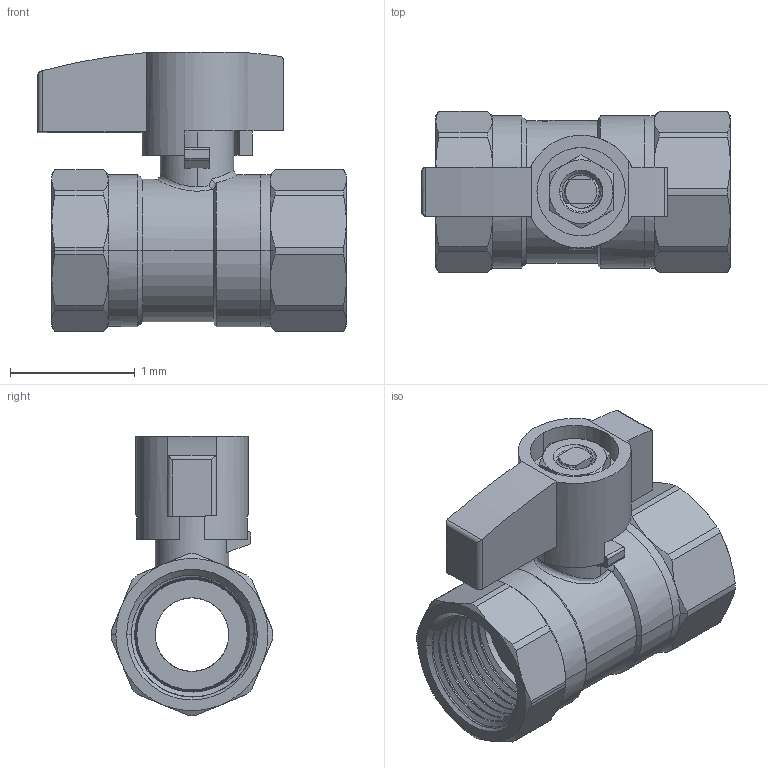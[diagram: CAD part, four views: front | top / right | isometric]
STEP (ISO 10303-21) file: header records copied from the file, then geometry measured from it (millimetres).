
FILE_DESCRIPTION(('Open CASCADE Model'),'2;1');
FILE_NAME('Open CASCADE Shape Model','2022-08-04T08:03:59',('Author'),( 'Open CASCADE'),'Open CASCADE STEP processor 7.3','Open CASCADE 7.3' ,'Unknown');
FILE_SCHEMA(('AUTOMOTIVE_DESIGN { 1 0 10303 214 1 1 1 1 }'));
Length unit declared in the file: millimetre
Products named in the file (12): Open CASCADE STEP translator 7.3 1; Open CASCADE STEP translator 7.3 1.1; Open CASCADE STEP translator 7.3 1.2; Open CASCADE STEP translator 7.3 1.3; Open CASCADE STEP translator 7.3 1.4; Open CASCADE STEP translator 7.3 1.5; Open CASCADE STEP translator 7.3 1.6; Open CASCADE STEP translator 7.3 1.7; Open CASCADE STEP translator 7.3 1.8; Open CASCADE STEP translator 7.3 1.9; Open CASCADE STEP translator 7.3 1.10; Open CASCADE STEP translator 7.3 1.11
Assembly tree (11 placements, depth 2):
  Open CASCADE STEP translator 7.3 1
    Open CASCADE STEP translator 7.3 1.1
    Open CASCADE STEP translator 7.3 1.2
    Open CASCADE STEP translator 7.3 1.3
    Open CASCADE STEP translator 7.3 1.4
    Open CASCADE STEP translator 7.3 1.5
    Open CASCADE STEP translator 7.3 1.6
    Open CASCADE STEP translator 7.3 1.7
    Open CASCADE STEP translator 7.3 1.8
    Open CASCADE STEP translator 7.3 1.9
    Open CASCADE STEP translator 7.3 1.10
    Open CASCADE STEP translator 7.3 1.11
Bounding box: 2.48 x 1.3 x 2.24 mm (x, y, z)
Volume: 2.1 mm3; surface area: 42.5 mm2
Topology: 11 solids, 11 shells, 525 faces, 1374 edges, 882 vertices
Faces by surface type: cylinder 163, cone 129, plane 126, bspline 79, torus 20, sphere 6, revolution 2
Entity records: 93895 total; most frequent: CARTESIAN_POINT 69592, DIRECTION 3584, ORIENTED_EDGE 2744, PCURVE 2744, DEFINITIONAL_REPRESENTATION 2744, LINE 1771, VECTOR 1771, B_SPLINE_CURVE_WITH_KNOTS 1564
